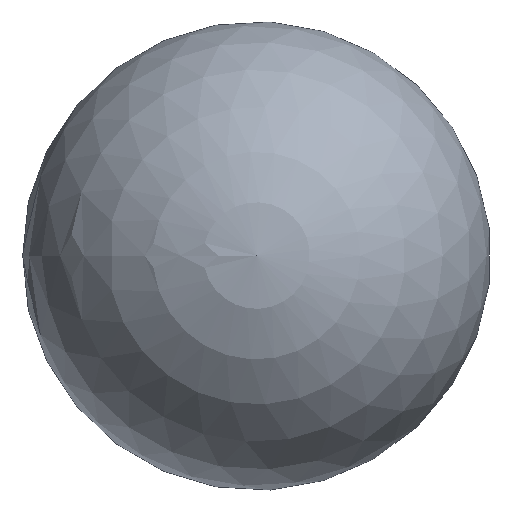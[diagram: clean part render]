
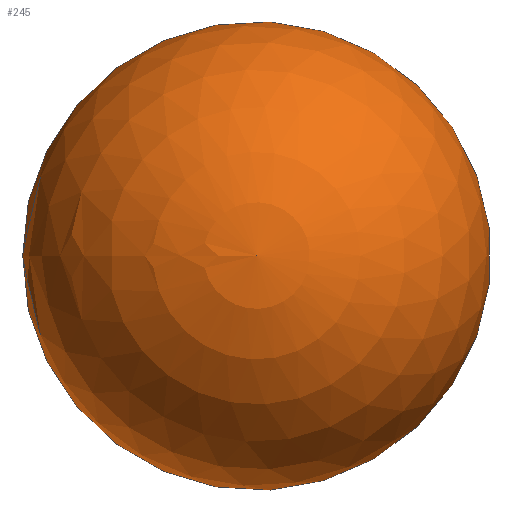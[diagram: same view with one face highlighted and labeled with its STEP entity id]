
A CAD part, top view. The second image highlights one B-rep face of the part: STEP entity #245.
In plain terms, the highlighted spherical face has radius 250 mm.
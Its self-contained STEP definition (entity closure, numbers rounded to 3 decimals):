
#20=SPHERICAL_SURFACE('',#311,250.);
#59=FACE_OUTER_BOUND('',#79,.T.);
#79=EDGE_LOOP('',(#224,#225,#226));
#115=CIRCLE('',#310,40.018);
#116=CIRCLE('',#312,250.);
#135=VERTEX_POINT('',#474);
#136=VERTEX_POINT('',#477);
#165=EDGE_CURVE('',#135,#135,#115,.T.);
#166=EDGE_CURVE('',#136,#135,#116,.T.);
#224=ORIENTED_EDGE('',*,*,#165,.T.);
#225=ORIENTED_EDGE('',*,*,#166,.F.);
#226=ORIENTED_EDGE('',*,*,#166,.T.);
#245=ADVANCED_FACE('',(#59),#20,.T.);
#310=AXIS2_PLACEMENT_3D('',#475,#400,#401);
#311=AXIS2_PLACEMENT_3D('',#476,#402,#403);
#312=AXIS2_PLACEMENT_3D('',#478,#404,#405);
#400=DIRECTION('center_axis',(0.,0.,1.));
#401=DIRECTION('ref_axis',(1.,0.,0.));
#402=DIRECTION('center_axis',(0.,0.,1.));
#403=DIRECTION('ref_axis',(1.,0.,0.));
#404=DIRECTION('center_axis',(0.,-1.,0.));
#405=DIRECTION('ref_axis',(-1.,0.,0.));
#474=CARTESIAN_POINT('',(-40.018,0.,0.));
#475=CARTESIAN_POINT('Origin',(0.,0.,0.));
#476=CARTESIAN_POINT('Origin',(0.,0.,246.776));
#477=CARTESIAN_POINT('',(0.,0.,496.776));
#478=CARTESIAN_POINT('Origin',(0.,0.,246.776));
